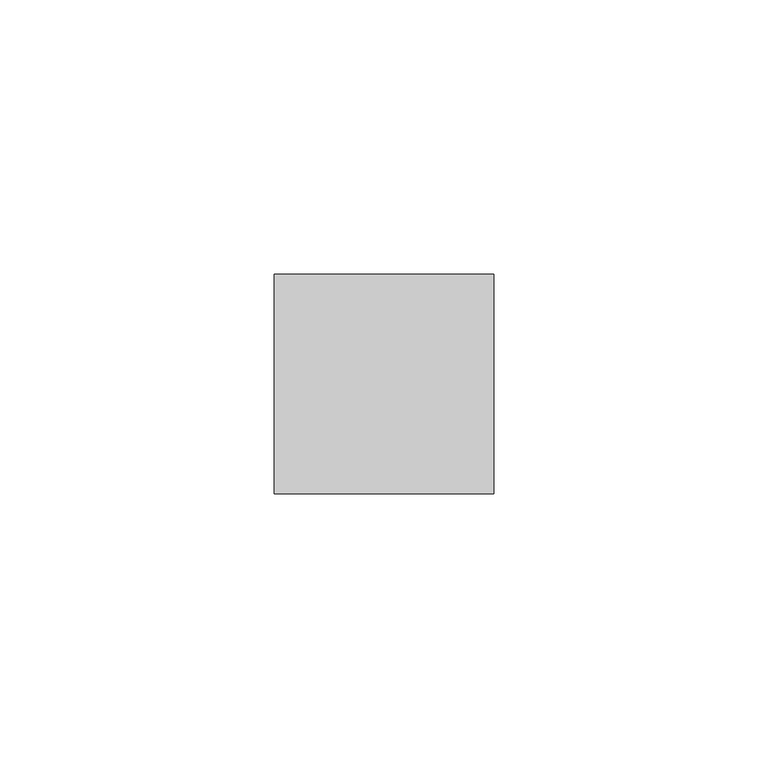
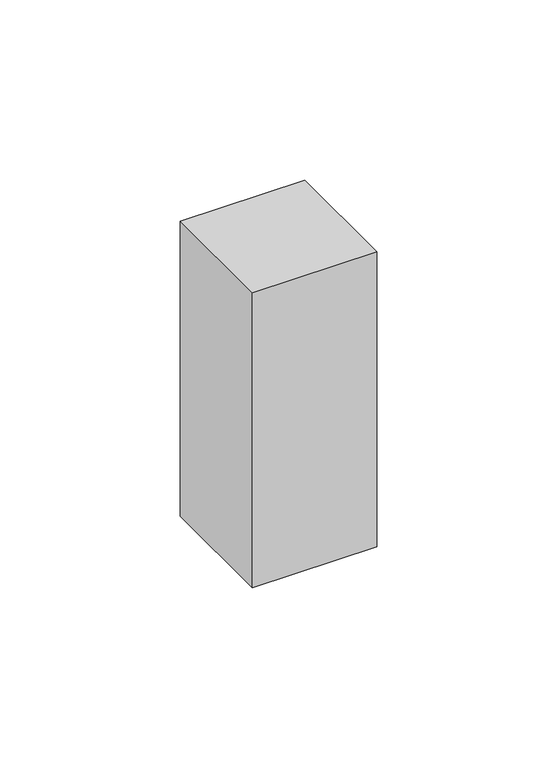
"""IFC4 building model written with IfcOpenShell, lengths in millimetres: proxy geometry, Modelos genéricos 170 : Modelos genéricos 166."""

from ifc_helpers import new_model, si_unit, frame, origin, place, context, project, spatial, polyline, outline, extrude, source, transform, mapped, element, save


def generic_models_47827c54(model_context):
    return source(origin(), model_context, "Body", "SweptSolid", [
        extrude(outline(polyline([(-4108.4456835, -10204.0426786), (-4108.4456835, -10244.0426786), (-4148.4456835, -10244.0426786), (-4148.4456835, -10204.0426786), (-4108.4456835, -10204.0426786)])), frame((0.0, 0.0, 890.0), z_axis=(0.0, 0.0, 1.0), x_axis=(1.0, 0.0, 0.0)), (0.0, 0.0, 1.0), 100.0),
    ])


if __name__ == "__main__":
    model = new_model("IFC4")
    model_context = context("Model", 3, world=origin())
    ifc_project = project(units=[si_unit("LENGTHUNIT", "METRE", prefix="MILLI")], contexts=[model_context])
    site = spatial("IfcSite", under=ifc_project)
    building = spatial("IfcBuilding", under=site)
    placement = place(None, origin())
    generic_models_shape = generic_models_47827c54(model_context)
    element("IfcBuildingElementProxy", 1, Name="Modelos genéricos 170 : Modelos genéricos 166", ObjectType="Modelos genéricos 170 : Modelos genéricos 166", at=placement, inside=building, context=model_context, shape_type="MappedRepresentation", body=[
        mapped(generic_models_shape, transform((0.0, 0.0, 0.0), x_axis=(1.0, 0.0, 0.0), y_axis=(0.0, 1.0, 0.0), z_axis=(0.0, 0.0, 1.0))),
    ])
    save(model, "model.ifc")
